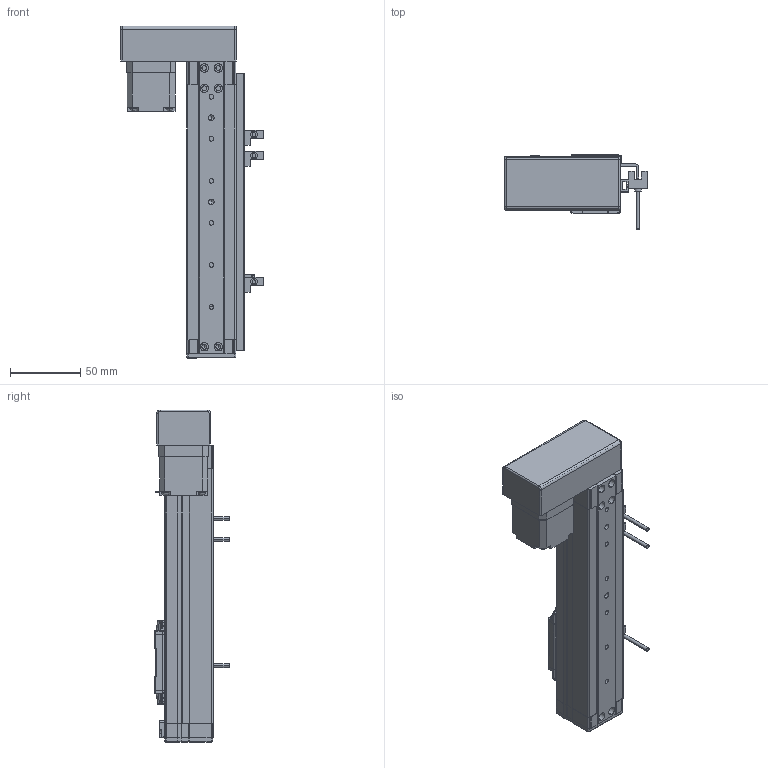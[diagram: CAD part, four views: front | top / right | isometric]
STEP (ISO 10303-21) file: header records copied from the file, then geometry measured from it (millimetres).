
FILE_DESCRIPTION (( 'STEP AP203' ), '1' );
FILE_NAME ('PES035LON-0825-ST100-35NN00-N-I3R.STEP', '2015-10-06T07:43:02', ( '' ), ( '' ), 'SwSTEP 2.0', 'SolidWorks 2012', '' );
FILE_SCHEMA (( 'CONFIG_CONTROL_DESIGN' ));
Length unit declared in the file: millimetre
Products named in the file (8): PES035LON-0825-ST100-35NN00-N-I3R; NEMA14; PES035S-Front Plate Cover; PM-R24; PES035S-Front Plate; PES035-Carrier END COVER; PES035P-100ST Part; PES035-Carrier UPPER COVER
Assembly tree (10 placements, depth 2):
  PES035LON-0825-ST100-35NN00-N-I3R
    PES035P-100ST Part
    PES035-Carrier UPPER COVER
    PES035-Carrier END COVER  x2
    PM-R24  x3
    PES035S-Front Plate
    NEMA14
    PES035S-Front Plate Cover
Bounding box: 101.8 x 53 x 237 mm (x, y, z)
Volume: 195088 mm3; surface area: 125011.7 mm2
Topology: 13 solids, 15 shells, 1067 faces, 2804 edges, 1792 vertices
Faces by surface type: plane 521, cylinder 406, bspline 98, cone 24, torus 18
Entity records: 30765 total; most frequent: CARTESIAN_POINT 7505, ORIENTED_EDGE 4766, DIRECTION 4567, EDGE_CURVE 2383, VERTEX_POINT 1542, AXIS2_PLACEMENT_3D 1538, VECTOR 1491, LINE 1491
